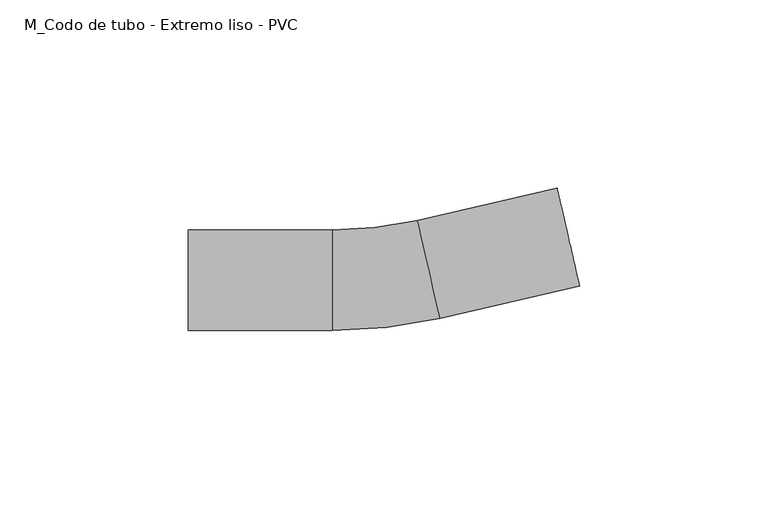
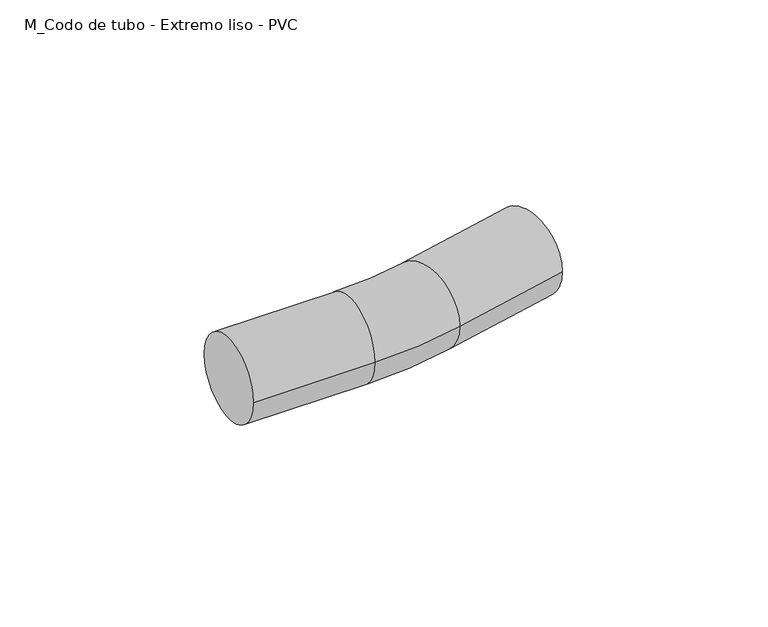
"""IFC4 building model written with IfcOpenShell, lengths in millimetres: cable carrier fitting geometry, M_Codo de tubo - Extremo liso - PVC : CODO ILUMINACION."""

import ifcopenshell
import ifcopenshell.guid

model = None  # the IFC model being written
_history = None  # IfcOwnerHistory: only IFC2X3 demands one
_inside = {}  # id of a spatial element -> (the spatial element, [elements in it])
_under = {}  # id of a project, library or spatial element -> (it, [spatial elements below it])
_declared = {}  # id of a project -> (the project, [libraries it declares])
_typed = {}  # id of a type object -> (the type object, [elements of that type])
_made_of = {}  # id of a material, layer set ... -> (it, [elements and type objects made of it])


def new_model(schema):
    """Start an empty IFC model of exactly this schema.

    Asked for "IFC4X3", IfcOpenShell would pick the latest addendum, in which some entities
    have other attributes; the version numbers below select the first issue.
    IFC2X3 requires an IfcOwnerHistory on every rooted entity: one is made here for all.
    """
    global model, _history
    if schema == "IFC4X3":
        model = ifcopenshell.file(schema_version=(4, 3, 0, 0))
    else:
        model = ifcopenshell.file(schema=schema)
    _inside.clear()
    _under.clear()
    _declared.clear()
    _typed.clear()
    _made_of.clear()
    _history = None
    if model.schema == "IFC2X3":
        org = make("IfcOrganization", Name="unknown")
        user = make(
            "IfcPersonAndOrganization",
            ThePerson=make("IfcPerson", FamilyName="unknown"),
            TheOrganization=org,
        )
        app = make(
            "IfcApplication",
            ApplicationDeveloper=org,
            Version="unknown",
            ApplicationFullName="unknown",
            ApplicationIdentifier="unknown",
        )
        _history = make(
            "IfcOwnerHistory",
            OwningUser=user,
            OwningApplication=app,
            ChangeAction="ADDED",
            CreationDate=0,
        )
    return model


def make(cls, **values):
    """One entity of the class cls with the attributes given. An attribute that is None is left unset."""
    return model.create_entity(
        cls, **{name: value for name, value in values.items() if value is not None}
    )


def rooted(cls, **values):
    """An entity with a GlobalId (a new one), such as an element, a storey or a relation."""
    return make(cls, GlobalId=ifcopenshell.guid.new(), OwnerHistory=_history, **values)


def si_unit(unit_type, name, prefix=None):
    """IfcSIUnit, for example si_unit("LENGTHUNIT", "METRE", prefix="MILLI")."""
    return make("IfcSIUnit", UnitType=unit_type, Prefix=prefix, Name=name)


def assignment(units):
    """IfcUnitAssignment: the units of a project."""
    return None if units is None else make("IfcUnitAssignment", Units=units)


def point(xyz):
    """IfcCartesianPoint."""
    return None if xyz is None else make("IfcCartesianPoint", Coordinates=xyz)


def direction(xyz):
    """IfcDirection."""
    return None if xyz is None else make("IfcDirection", DirectionRatios=xyz)


def frame(location, z_axis=None, x_axis=None):
    """IfcAxis2Placement3D, a coordinate frame: its origin and axes. An axis left out is left unset."""
    return make(
        "IfcAxis2Placement3D",
        Location=point(location),
        Axis=direction(z_axis),
        RefDirection=direction(x_axis),
    )


def origin():
    """The frame at (0, 0, 0) with its axes left unset."""
    return frame((0.0, 0.0, 0.0))


def place(relative_to, where):
    """IfcLocalPlacement: puts the frame where relative to a parent placement (None: the world)."""
    return make(
        "IfcLocalPlacement", PlacementRelTo=relative_to, RelativePlacement=where
    )


def context(
    kind, dimensions, precision=None, world=None, true_north=None, identifier=None
):
    """IfcGeometricRepresentationContext, for example the 3D "Model" context."""
    return make(
        "IfcGeometricRepresentationContext",
        ContextIdentifier=identifier,
        ContextType=kind,
        CoordinateSpaceDimension=dimensions,
        Precision=precision,
        WorldCoordinateSystem=world,
        TrueNorth=true_north,
    )


def project(units=None, contexts=None):
    """IfcProject with its units and contexts."""
    return rooted(
        "IfcProject",
        Name="project",
        RepresentationContexts=contexts,
        UnitsInContext=assignment(units),
    )


def spatial(cls, under=None, at=None, **own):
    """A site, building, storey or space (cls), placed at a placement, below another one or the project."""
    s = rooted(cls, ObjectPlacement=at, **own)
    if under is not None:
        _under.setdefault(under.id(), (under, []))[1].append(s)
    return s


def circle_curve(where, radius):
    """IfcCircle in the frame where."""
    return make("IfcCircle", Position=where, Radius=radius)


def ellipse_curve(where, semi_axis1, semi_axis2):
    """IfcEllipse in the frame where."""
    return make(
        "IfcEllipse", Position=where, SemiAxis1=semi_axis1, SemiAxis2=semi_axis2
    )


def trimmed(basis, trim1, trim2, sense, master):
    """IfcTrimmedCurve: the piece of a basis curve between two trims."""
    return make(
        "IfcTrimmedCurve",
        BasisCurve=basis,
        Trim1=trim1,
        Trim2=trim2,
        SenseAgreement=sense,
        MasterRepresentation=master,
    )


def shape(context_of_items, identifier, shape_type, items):
    """IfcShapeRepresentation: the items that make up one representation, for example the "Body"."""
    return make(
        "IfcShapeRepresentation",
        ContextOfItems=context_of_items,
        RepresentationIdentifier=identifier,
        RepresentationType=shape_type,
        Items=items,
    )


def source(mapping_origin, context_of_items, identifier, shape_type, items):
    """IfcRepresentationMap: a shape defined once, which mapped items show again and again."""
    return make(
        "IfcRepresentationMap",
        MappingOrigin=mapping_origin,
        MappedRepresentation=shape(context_of_items, identifier, shape_type, items),
    )


def transform(
    local_origin,
    x_axis=None,
    y_axis=None,
    z_axis=None,
    scale=None,
    scale2=None,
    scale3=None,
    uniform=True,
):
    """IfcCartesianTransformationOperator3D, or its non-uniform kind. x_axis, y_axis, z_axis: its Axis1, 2, 3."""
    if uniform:
        return make(
            "IfcCartesianTransformationOperator3D",
            Axis1=direction(x_axis),
            Axis2=direction(y_axis),
            LocalOrigin=point(local_origin),
            Scale=scale,
            Axis3=direction(z_axis),
        )
    return make(
        "IfcCartesianTransformationOperator3DnonUniform",
        Axis1=direction(x_axis),
        Axis2=direction(y_axis),
        LocalOrigin=point(local_origin),
        Scale=scale,
        Axis3=direction(z_axis),
        Scale2=scale2,
        Scale3=scale3,
    )


def mapped(mapping_source, mapping_target):
    """IfcMappedItem: shows the shape of a source again, moved by a transform."""
    return make(
        "IfcMappedItem", MappingSource=mapping_source, MappingTarget=mapping_target
    )


def made_of(thing, what):
    """Note that an element or type object is made of a material, layer set ...; save() writes the relation."""
    if what is not None:
        _made_of.setdefault(what.id(), (what, []))[1].append(thing)
    return thing


def element(
    cls,
    number,
    at=None,
    inside=None,
    cuts=None,
    type_object=None,
    material=None,
    context=None,
    identifier="Body",
    shape_type=None,
    held_by="IfcProductDefinitionShape",
    body=None,
    shapes=None,
    **own,
):
    """One element of the class cls, such as IfcWall. Its Tag is "e" and its number.

    at: its placement. inside: the storey or other place that contains it. cuts: it is an
    opening in that element (IfcRelVoidsElement). A single representation is given by context,
    identifier, shape_type and body (its items); several are given by shapes. held_by: the class
    of the entity that holds the representations. save() writes the other relations.
    """
    e = rooted(cls, Tag="e%d" % number, ObjectPlacement=at, **own)
    if body is not None:
        shapes = [shape(context, identifier, shape_type, body)]
    if shapes is not None:
        e.Representation = make(held_by, Representations=shapes)
    if inside is not None:
        _inside.setdefault(inside.id(), (inside, []))[1].append(e)
    if cuts is not None:
        rooted(
            "IfcRelVoidsElement", RelatingBuildingElement=cuts, RelatedOpeningElement=e
        )
    if type_object is not None:
        _typed.setdefault(type_object.id(), (type_object, []))[1].append(e)
    return made_of(e, material)


def aggregate(whole, parts):
    """IfcRelAggregates: a whole, such as a stair, and the parts it consists of."""
    return rooted("IfcRelAggregates", RelatingObject=whole, RelatedObjects=parts)


def save(model, path):
    """Write the relations noted so far, then the file.

    IfcRelAggregates (storeys below a building ...), IfcRelContainedInSpatialStructure (elements
    in a storey), IfcRelDefinesByType, IfcRelAssociatesMaterial and IfcRelDeclares: one each for
    every whole, place, type object, material and project.
    """
    for whole, parts in _under.values():
        aggregate(whole, parts)
    for where, things in _inside.values():
        rooted(
            "IfcRelContainedInSpatialStructure",
            RelatedElements=things,
            RelatingStructure=where,
        )
    for kind, things in _typed.values():
        rooted("IfcRelDefinesByType", RelatedObjects=things, RelatingType=kind)
    for what, things in _made_of.values():
        rooted("IfcRelAssociatesMaterial", RelatedObjects=things, RelatingMaterial=what)
    for by, libraries in _declared.values():
        rooted("IfcRelDeclares", RelatingContext=by, RelatedDefinitions=libraries)
    model.write(path)


def plane_surface(at):
    """IfcPlane: the flat surface through the origin of the frame at, square to its z axis."""
    return make("IfcPlane", Position=at)


def cylinder_surface(at, radius):
    """IfcCylindricalSurface: all points at the distance radius from the z axis of the frame at."""
    return make("IfcCylindricalSurface", Position=at, Radius=radius)


def revolved_surface(curve, axis_point, axis_direction):
    """IfcSurfaceOfRevolution: the curve turned about the line through axis_point along axis_direction."""
    return make(
        "IfcSurfaceOfRevolution",
        SweptCurve=make("IfcArbitraryOpenProfileDef", ProfileType="CURVE", Curve=curve),
        AxisPosition=make("IfcAxis1Placement", Location=point(axis_point), Axis=direction(axis_direction)),
    )


def advanced_brep(points, edges, surfaces, faces):
    """IfcAdvancedBrep: a solid bounded by faces that lie on surfaces and meet in shared edges.

    An edge is (start, end): straight between two places in points (the first is 0);
    or (start, end, curve); or (start, end, curve, False) where it runs against its curve.
    A face is (place in surfaces, loops), or (place, loops, False) where it looks against
    its surface's normal. A loop lists edges by number (the first is 1), with a minus sign
    where the edge is run from its end to its start. The first loop is the outer one.
    """
    corners = [point(p) for p in points]
    vertices = [make("IfcVertexPoint", VertexGeometry=c) for c in corners]
    made = []
    for start, end, *more in edges:
        made.append(
            make(
                "IfcEdgeCurve",
                EdgeStart=vertices[start],
                EdgeEnd=vertices[end],
                EdgeGeometry=more[0] if more else make("IfcPolyline", Points=[corners[start], corners[end]]),
                SameSense=more[1] if len(more) > 1 else True,
            )
        )
    hull = []
    for where, loops, *sense in faces:
        bounds = []
        for j, loop in enumerate(loops):
            ring = [make("IfcOrientedEdge", EdgeElement=made[abs(k) - 1], Orientation=k > 0) for k in loop]
            bounds.append(
                make(
                    "IfcFaceOuterBound" if j == 0 else "IfcFaceBound",
                    Bound=make("IfcEdgeLoop", EdgeList=ring),
                    Orientation=True,
                )
            )
        hull.append(make("IfcAdvancedFace", Bounds=bounds, FaceSurface=surfaces[where], SameSense=sense[0] if sense else True))
    return make("IfcAdvancedBrep", Outer=make("IfcClosedShell", CfsFaces=hull))


def m_codo_de_tubo_extremo_liso_pvc_49654b31(model_context):
    return source(origin(), model_context, "Body", "AdvancedBrep", [
        advanced_brep(
        [(-51.0392092, -13.335, 0.0), (-51.0392092, 13.335, 0.0), (-12.9392092, -13.335, 0.0), (-12.9392092, 13.335, 0.0), (9.6308225, 15.8900163, 0.0), (15.5927176, -10.1050738, 0.0), (52.7285605, -1.5880807, 0.0), (46.7666654, 24.4070093, 0.0)],
        [
            (0, 1, circle_curve(frame((-51.0392092, 0.0, 0.0), z_axis=(-1.0, 0.0, 0.0), x_axis=(0.0, 1.0, 0.0)), 13.335)),
            (1, 0, circle_curve(frame((-51.0392092, 0.0, 0.0), z_axis=(-1.0, 0.0, 0.0), x_axis=(0.0, 1.0, 0.0)), 13.335)),
            (0, 2),
            (2, 3, circle_curve(frame((-12.9392092, 0.0, 0.0), z_axis=(-1.0, 0.0, 0.0), x_axis=(0.0, 1.0, 0.0)), 13.335)),
            (3, 1),
            (3, 2, circle_curve(frame((-12.9392092, 0.0, 0.0), z_axis=(-1.0, 0.0, 0.0), x_axis=(0.0, 1.0, 0.0)), 13.335)),
            (4, 3, circle_curve(frame((-12.9392092, 114.3, 0.0), z_axis=(0.0, 0.0, -1.0), x_axis=(0.0, -1.0, 0.0)), 100.965)),
            (2, 5, circle_curve(frame((-12.9392092, 114.3, 0.0), z_axis=(0.0, 0.0, 1.0), x_axis=(0.0, -1.0, 0.0)), 127.635)),
            (5, 4, circle_curve(frame((12.61177, 2.8924713, 0.0), z_axis=(-0.9746940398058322, -0.22354312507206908, 0.0), x_axis=(-0.22354312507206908, 0.9746940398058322, 0.0)), 13.335)),
            (4, 5, circle_curve(frame((12.61177, 2.8924713, 0.0), z_axis=(-0.9746940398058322, -0.22354312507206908, 0.0), x_axis=(-0.22354312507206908, 0.9746940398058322, 0.0)), 13.335)),
            (6, 7, circle_curve(frame((49.747613, 11.4094643, 0.0), z_axis=(0.9746940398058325, 0.22354312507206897, 0.0), x_axis=(-0.22354312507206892, 0.9746940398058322, 0.0)), 13.335)),
            (7, 6, circle_curve(frame((49.747613, 11.4094643, 0.0), z_axis=(0.9746940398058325, 0.22354312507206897, 0.0), x_axis=(-0.22354312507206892, 0.9746940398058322, 0.0)), 13.335)),
            (5, 6),
            (7, 4),
        ],
        [
            plane_surface(frame((-51.0392092, 0.0, 0.0), z_axis=(-1.0, 0.0, 0.0), x_axis=(0.0, 0.0, 1.0))),
            cylinder_surface(frame((-51.0392092, 0.0, 0.0), z_axis=(-1.0, 0.0, 0.0), x_axis=(0.0, 1.0, 0.0)), 13.335),
            revolved_surface(trimmed(ellipse_curve(frame((-12.9392092, 0.0, 0.0), z_axis=(-1.0, 0.0, 0.0), x_axis=(0.0, 1.0, 0.0)), 13.335, 13.335), [point((-12.9392092, -13.335, 0.0))], [point((-12.9392092, 13.335, 0.0))], True, "CARTESIAN"), (-12.9392092, 114.3, 0.0), (0.0, 0.0, 1.0)),
            revolved_surface(trimmed(ellipse_curve(frame((-12.9392092, 0.0, 0.0), z_axis=(-1.0, 0.0, 0.0), x_axis=(0.0, 1.0, 0.0)), 13.335, 13.335), [point((-12.9392092, 13.335, 0.0))], [point((-12.9392092, -13.335, 0.0))], True, "CARTESIAN"), (-12.9392092, 114.3, 0.0), (0.0, 0.0, 1.0)),
            plane_surface(frame((49.747613, 11.4094643, 0.0), z_axis=(0.9746940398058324, 0.22354312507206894, 0.0), x_axis=(0.0, 0.0, 1.0))),
            cylinder_surface(frame((12.61177, 2.8924713, 0.0), z_axis=(-0.9746940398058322, -0.22354312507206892, 0.0), x_axis=(-0.22354312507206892, 0.9746940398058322, 0.0)), 13.335),
        ],
        [
            (0, [[1, 2]]),
            (1, [[-1, 3, 4, 5]]),
            (1, [[-2, -5, 6, -3]]),
            (2, [[7, -4, 8, 9]]),
            (3, [[-8, -6, -7, 10]]),
            (4, [[11, 12]]),
            (5, [[-9, 13, -12, 14]]),
            (5, [[-10, -14, -11, -13]]),
        ],
    ),
    ])


if __name__ == "__main__":
    model = new_model("IFC4")
    model_context = context("Model", 3, world=origin())
    ifc_project = project(units=[si_unit("LENGTHUNIT", "METRE", prefix="MILLI")], contexts=[model_context])
    site = spatial("IfcSite", under=ifc_project)
    building = spatial("IfcBuilding", under=site)
    placement = place(None, origin())
    m_codo_de_tubo_extremo_liso_pvc_shape = m_codo_de_tubo_extremo_liso_pvc_49654b31(model_context)
    element("IfcCableCarrierFitting", 1, ObjectType="M_Codo de tubo - Extremo liso - PVC : CODO ILUMINACION", at=placement, inside=building, context=model_context, shape_type="MappedRepresentation", body=[
        mapped(m_codo_de_tubo_extremo_liso_pvc_shape, transform((0.0, 0.0, 0.0), x_axis=(1.0, 0.0, 0.0), y_axis=(0.0, 1.0, 0.0), z_axis=(0.0, 0.0, 1.0))),
    ])
    save(model, "model.ifc")
